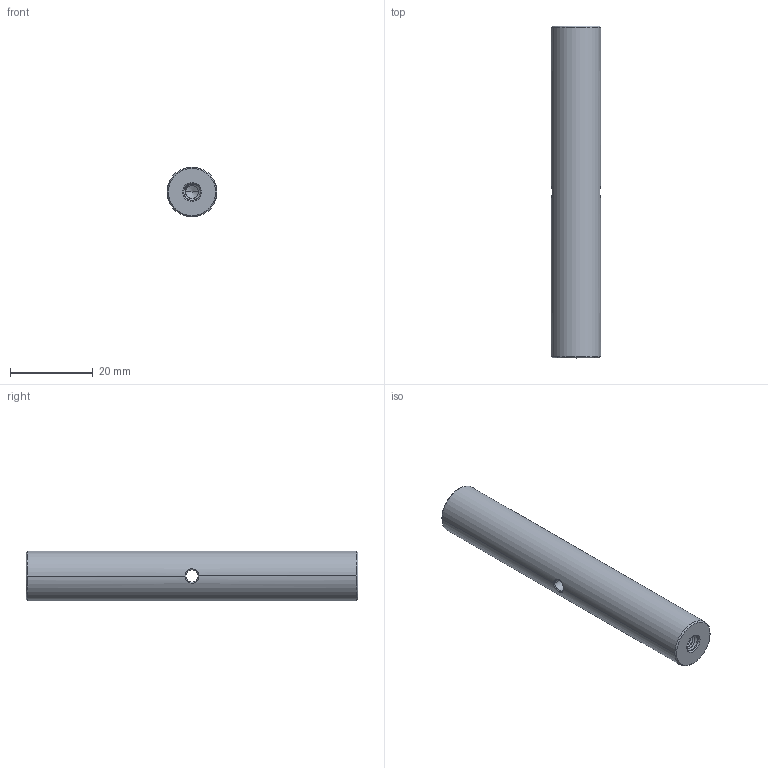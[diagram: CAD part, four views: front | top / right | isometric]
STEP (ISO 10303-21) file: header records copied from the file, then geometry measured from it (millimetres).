
FILE_DESCRIPTION((''),'2;1');
FILE_NAME('PCA8-S2','2020-12-11T',('Administrator'),(''),'CREO PARAMETRIC BY PTC INC, 2015290','CREO PARAMETRIC BY PTC INC, 2015290','');
FILE_SCHEMA(('CONFIG_CONTROL_DESIGN'));
Length unit declared in the file: millimetre
Products named in the file (1): PCA8-S2
Bounding box: 12 x 80 x 12 mm (x, y, z)
Volume: 8802.6 mm3; surface area: 3581.2 mm2
Topology: 1 solids, 1 shells, 80 faces, 216 edges, 134 vertices
Faces by surface type: cylinder 42, bspline 24, cone 12, plane 2
Entity records: 5904 total; most frequent: CARTESIAN_POINT 4172, ORIENTED_EDGE 424, DIRECTION 228, EDGE_CURVE 212, VERTEX_POINT 134, B_SPLINE_CURVE_WITH_KNOTS 116, EDGE_LOOP 82, FACE_OUTER_BOUND 80
